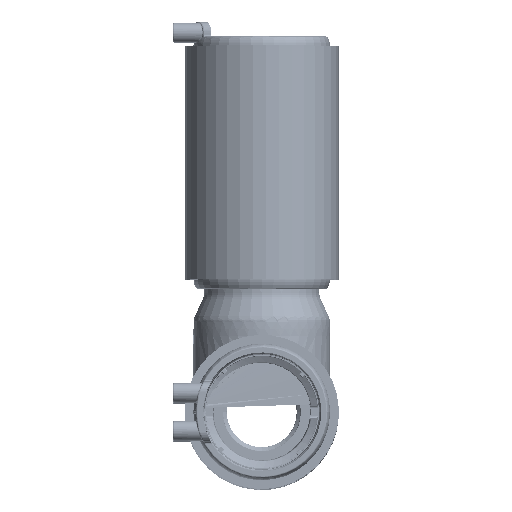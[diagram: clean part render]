
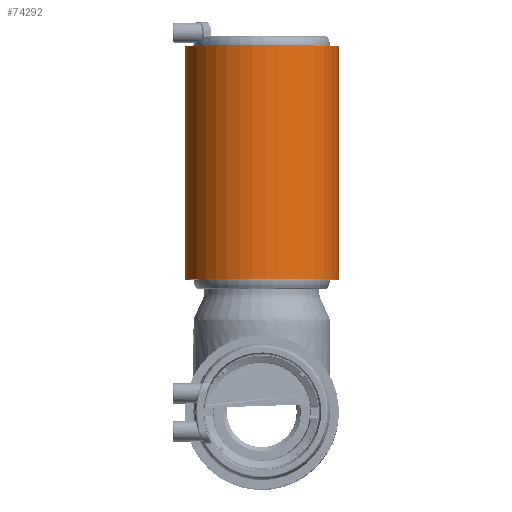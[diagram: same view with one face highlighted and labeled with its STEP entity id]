
A CAD part, top view. The second image highlights one B-rep face of the part: STEP entity #74292.
In plain terms, the highlighted cylindrical face has radius 50.75 mm (diameter 101.5 mm), a full revolution.
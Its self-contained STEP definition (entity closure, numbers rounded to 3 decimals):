
#4032 = FACE_OUTER_BOUND ( 'NONE', #67636, .T. ) ;
#6837 = VERTEX_POINT ( 'NONE', #63468 ) ;
#10410 = EDGE_LOOP ( 'NONE', ( #81967 ) ) ;
#22538 = EDGE_CURVE ( 'NONE', #6837, #6837, #132238, .T. ) ;
#22919 = DIRECTION ( 'NONE',  ( 0., 1., 0. ) ) ;
#23498 = DIRECTION ( 'NONE',  ( 0., -1., 0. ) ) ;
#29232 = FACE_OUTER_BOUND ( 'NONE', #10410, .T. ) ;
#29454 = AXIS2_PLACEMENT_3D ( 'NONE', #96389, #32046, #107203 ) ;
#30330 = VERTEX_POINT ( 'NONE', #43820 ) ;
#32046 = DIRECTION ( 'NONE',  ( 0., 1., 0. ) ) ;
#43820 = CARTESIAN_POINT ( 'NONE',  ( -33.785, 25.209, -33.814 ) ) ;
#54465 = CYLINDRICAL_SURFACE ( 'NONE', #100311, 50.75 ) ;
#55487 = EDGE_CURVE ( 'NONE', #30330, #30330, #79690, .T. ) ;
#63468 = CARTESIAN_POINT ( 'NONE',  ( -33.785, 179.209, -33.814 ) ) ;
#67636 = EDGE_LOOP ( 'NONE', ( #119177 ) ) ;
#74292 = ADVANCED_FACE ( 'NONE', ( #29232, #4032 ), #54465, .T. ) ;
#79690 = CIRCLE ( 'NONE', #109120, 50.75 ) ;
#81967 = ORIENTED_EDGE ( 'NONE', *, *, #22538, .F. ) ;
#87254 = CARTESIAN_POINT ( 'NONE',  ( -30.922, 25.209, 16.855 ) ) ;
#96389 = CARTESIAN_POINT ( 'NONE',  ( -30.922, 179.209, 16.855 ) ) ;
#98094 = DIRECTION ( 'NONE',  ( -0.056, 0., -0.998 ) ) ;
#100311 = AXIS2_PLACEMENT_3D ( 'NONE', #131510, #23498, #120682 ) ;
#107203 = DIRECTION ( 'NONE',  ( -0.056, 0., -0.998 ) ) ;
#109120 = AXIS2_PLACEMENT_3D ( 'NONE', #87254, #22919, #98094 ) ;
#119177 = ORIENTED_EDGE ( 'NONE', *, *, #55487, .T. ) ;
#120682 = DIRECTION ( 'NONE',  ( 0.056, 0., 0.998 ) ) ;
#131510 = CARTESIAN_POINT ( 'NONE',  ( -30.922, 179.209, 16.855 ) ) ;
#132238 = CIRCLE ( 'NONE', #29454, 50.75 ) ;
